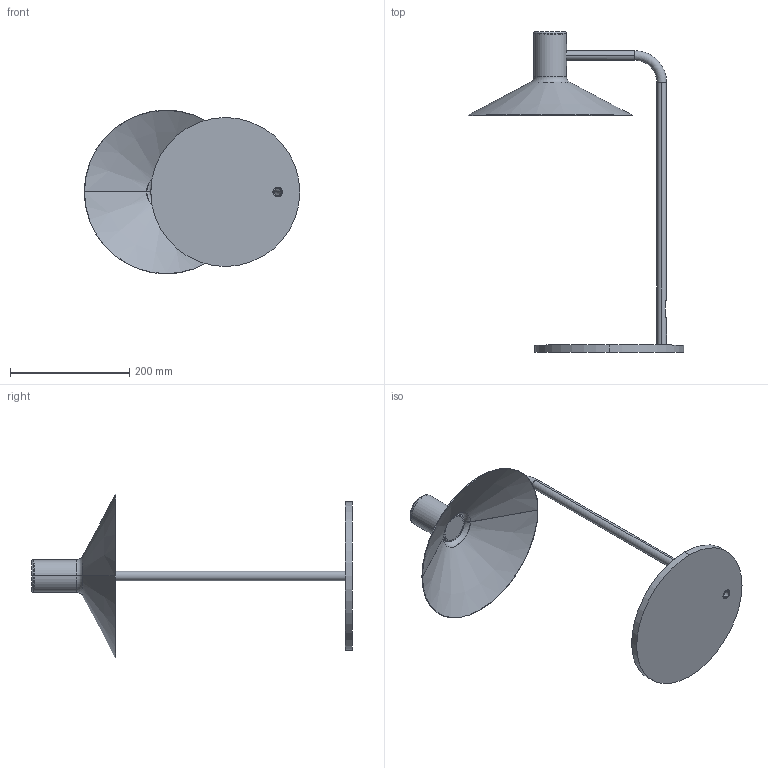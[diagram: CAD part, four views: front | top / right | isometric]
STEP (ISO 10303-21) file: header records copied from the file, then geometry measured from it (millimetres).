
FILE_DESCRIPTION (( 'STEP AP214' ), '1' );
FILE_NAME ('690166 Rewired Minneapolis Table Lamp.STEP', '2020-05-25T08:33:15', ( '' ), ( '' ), 'SwSTEP 2.0', 'SolidWorks 2020', '' );
FILE_SCHEMA (( 'AUTOMOTIVE_DESIGN' ));
Length unit declared in the file: millimetre
Products named in the file (6): 74447 Philips Master Expert Colour 5.5W GU10 LED Dimmable High CRI97; 265078 REWIRED Welded stem ø16 with base plate, table; (265078) Tube for table lamp; 280181 Rewired shade Ø275 ø55 H 140 facet from side; 690166 Rewired Minneapolis Table Lamp; (265076) Rewired baseplate Ø250 ø16.2 hole
Assembly tree (5 placements, depth 3):
  690166 Rewired Minneapolis Table Lamp
    265078 REWIRED Welded stem ø16 with base plate, table
      (265078) Tube for table lamp
      (265076) Rewired baseplate Ø250 ø16.2 hole
    280181 Rewired shade Ø275 ø55 H 140 facet from side
    74447 Philips Master Expert Colour 5.5W GU10 LED Dimmable High CRI97
Bounding box: 361.81 x 538 x 275 mm (x, y, z)
Volume: 764611.5 mm3; surface area: 332184.4 mm2
Topology: 4 solids, 4 shells, 128 faces, 284 edges, 172 vertices
Faces by surface type: cylinder 49, torus 26, plane 25, cone 20, bspline 8
Entity records: 4638 total; most frequent: CARTESIAN_POINT 1446, DIRECTION 660, ORIENTED_EDGE 568, AXIS2_PLACEMENT_3D 287, EDGE_CURVE 284, VERTEX_POINT 172, CIRCLE 158, EDGE_LOOP 148
